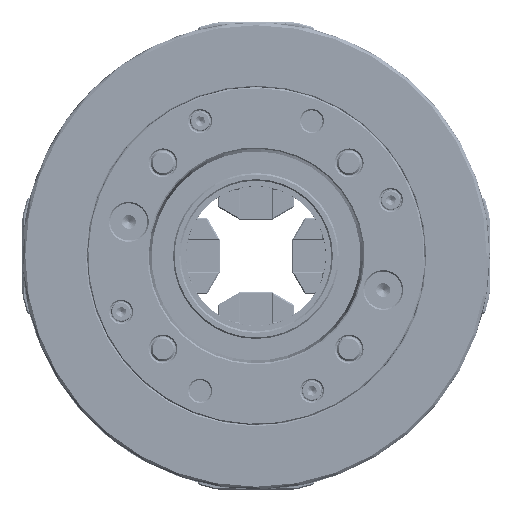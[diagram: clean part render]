
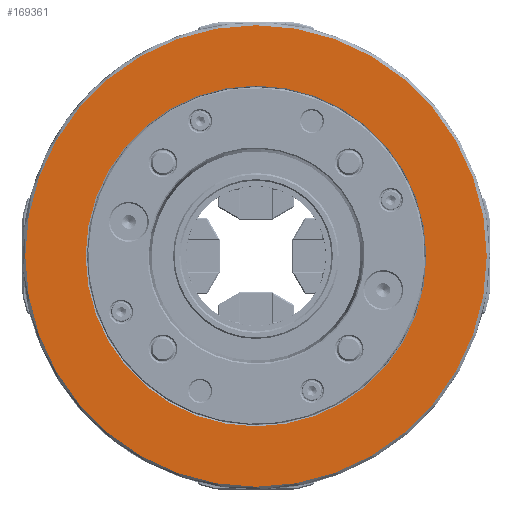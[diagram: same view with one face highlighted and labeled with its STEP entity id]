
A CAD part, front view. The second image highlights one B-rep face of the part: STEP entity #169361.
In plain terms, the highlighted planar face has unit normal (0, -1, 0).
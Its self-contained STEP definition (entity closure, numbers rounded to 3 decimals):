
#46551=PLANE('',#178186);
#51794=FACE_BOUND('',#61122,.T.);
#52853=FACE_OUTER_BOUND('',#61121,.T.);
#61121=EDGE_LOOP('',(#116460));
#61122=EDGE_LOOP('',(#116461));
#69436=CIRCLE('',#178007,150.193);
#69507=CIRCLE('',#178139,110.861);
#71292=VERTEX_POINT('',#240667);
#71383=VERTEX_POINT('',#241038);
#88692=EDGE_CURVE('',#71292,#71292,#69436,.T.);
#88825=EDGE_CURVE('',#71383,#71383,#69507,.T.);
#116460=ORIENTED_EDGE('',*,*,#88692,.F.);
#116461=ORIENTED_EDGE('',*,*,#88825,.F.);
#169361=ADVANCED_FACE('',(#52853,#51794),#46551,.F.);
#178007=AXIS2_PLACEMENT_3D('',#240668,#192952,#192953);
#178139=AXIS2_PLACEMENT_3D('',#241039,#193266,#193267);
#178186=AXIS2_PLACEMENT_3D('',#241145,#193374,#193375);
#192952=DIRECTION('center_axis',(0.,1.,0.));
#192953=DIRECTION('ref_axis',(0.,0.,1.));
#193266=DIRECTION('center_axis',(0.,-1.,0.));
#193267=DIRECTION('ref_axis',(0.,0.,1.));
#193374=DIRECTION('center_axis',(0.,1.,0.));
#193375=DIRECTION('ref_axis',(0.,0.,1.));
#240667=CARTESIAN_POINT('',(0.,0.,-150.193));
#240668=CARTESIAN_POINT('Origin',(0.,0.,0.));
#241038=CARTESIAN_POINT('',(0.,0.,
-110.861));
#241039=CARTESIAN_POINT('Origin',(0.,0.,0.));
#241145=CARTESIAN_POINT('Origin',(0.,0.,-110.));
